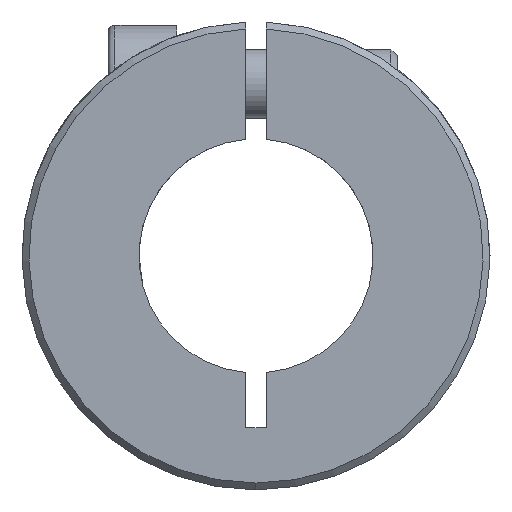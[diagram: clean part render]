
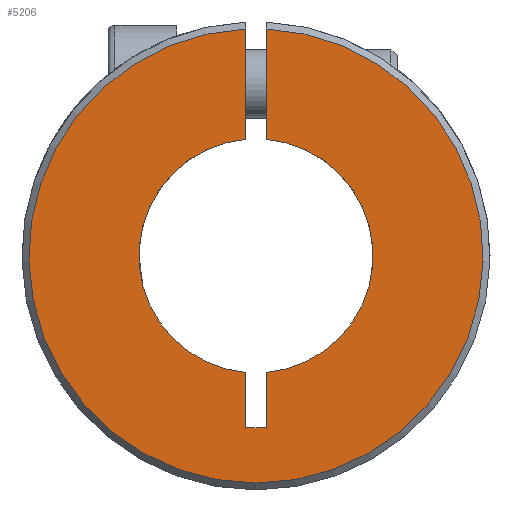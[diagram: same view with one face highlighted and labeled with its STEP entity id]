
A CAD part, left-side view. The second image highlights one B-rep face of the part: STEP entity #5206.
In plain terms, the highlighted planar face has unit normal (-1, 0, 0).
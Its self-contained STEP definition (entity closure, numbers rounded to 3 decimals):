
#6 = EDGE_CURVE ( 'NONE', #1097, #5092, #2898, .T. ) ;
#44 = DIRECTION ( 'NONE',  ( 0., 0., -1. ) ) ;
#96 = FACE_OUTER_BOUND ( 'NONE', #2799, .T. ) ;
#522 = AXIS2_PLACEMENT_3D ( 'NONE', #5287, #905, #4186 ) ;
#546 = CARTESIAN_POINT ( 'NONE',  ( -25., -0.75, 8.467 ) ) ;
#649 = LINE ( 'NONE', #3221, #5061 ) ;
#732 = DIRECTION ( 'NONE',  ( -1., 0., 0. ) ) ;
#773 = VECTOR ( 'NONE', #4416, 1000. ) ;
#903 = CIRCLE ( 'NONE', #1349, 16.5 ) ;
#905 = DIRECTION ( 'NONE',  ( -1., 0., 0. ) ) ;
#966 = CIRCLE ( 'NONE', #5164, 8.5 ) ;
#991 = CARTESIAN_POINT ( 'NONE',  ( -25., -0.75, -8.467 ) ) ;
#1097 = VERTEX_POINT ( 'NONE', #3614 ) ;
#1111 = VERTEX_POINT ( 'NONE', #1508 ) ;
#1178 = ORIENTED_EDGE ( 'NONE', *, *, #1530, .F. ) ;
#1190 = EDGE_CURVE ( 'NONE', #2698, #2719, #649, .T. ) ;
#1226 = EDGE_CURVE ( 'NONE', #3605, #2698, #1313, .T. ) ;
#1274 = LINE ( 'NONE', #3388, #1569 ) ;
#1297 = VERTEX_POINT ( 'NONE', #1979 ) ;
#1301 = CARTESIAN_POINT ( 'NONE',  ( -25., 0., 0. ) ) ;
#1313 = CIRCLE ( 'NONE', #4388, 8.5 ) ;
#1349 = AXIS2_PLACEMENT_3D ( 'NONE', #2109, #4329, #44 ) ;
#1384 = DIRECTION ( 'NONE',  ( 0., 0., 1. ) ) ;
#1508 = CARTESIAN_POINT ( 'NONE',  ( -25., 0.75, -12.5 ) ) ;
#1530 = EDGE_CURVE ( 'NONE', #1297, #5046, #966, .T. ) ;
#1540 = ORIENTED_EDGE ( 'NONE', *, *, #1190, .F. ) ;
#1569 = VECTOR ( 'NONE', #2984, 1000. ) ;
#1679 = PLANE ( 'NONE',  #4803 ) ;
#1767 = CARTESIAN_POINT ( 'NONE',  ( -25., 8.5, 0. ) ) ;
#1979 = CARTESIAN_POINT ( 'NONE',  ( -25., 0.75, 8.467 ) ) ;
#2092 = EDGE_CURVE ( 'NONE', #1297, #1097, #4672, .T. ) ;
#2093 = EDGE_CURVE ( 'NONE', #5092, #2719, #903, .T. ) ;
#2109 = CARTESIAN_POINT ( 'NONE',  ( -25., 0., 0. ) ) ;
#2113 = DIRECTION ( 'NONE',  ( 0., 1., 0. ) ) ;
#2126 = VECTOR ( 'NONE', #1384, 1000. ) ;
#2452 = ORIENTED_EDGE ( 'NONE', *, *, #4071, .T. ) ;
#2576 = ORIENTED_EDGE ( 'NONE', *, *, #6, .T. ) ;
#2579 = CARTESIAN_POINT ( 'NONE',  ( -25., 0.75, -12.5 ) ) ;
#2698 = VERTEX_POINT ( 'NONE', #546 ) ;
#2719 = VERTEX_POINT ( 'NONE', #4822 ) ;
#2799 = EDGE_LOOP ( 'NONE', ( #5129, #2576, #4962, #1540, #5017, #3931, #4162, #2452, #1178 ) ) ;
#2832 = DIRECTION ( 'NONE',  ( 0., 0., 1. ) ) ;
#2898 = CIRCLE ( 'NONE', #522, 16.5 ) ;
#2984 = DIRECTION ( 'NONE',  ( 0., 1., 0. ) ) ;
#3221 = CARTESIAN_POINT ( 'NONE',  ( -25., -0.75, -12.5 ) ) ;
#3358 = CARTESIAN_POINT ( 'NONE',  ( -25., 0., -16.5 ) ) ;
#3388 = CARTESIAN_POINT ( 'NONE',  ( -25., -0.75, -12.5 ) ) ;
#3438 = VECTOR ( 'NONE', #2832, 1000. ) ;
#3587 = LINE ( 'NONE', #4817, #773 ) ;
#3605 = VERTEX_POINT ( 'NONE', #991 ) ;
#3614 = CARTESIAN_POINT ( 'NONE',  ( -25., 0.75, 16.483 ) ) ;
#3661 = CARTESIAN_POINT ( 'NONE',  ( -25., 0., 0. ) ) ;
#3769 = DIRECTION ( 'NONE',  ( -1., 0., 0. ) ) ;
#3931 = ORIENTED_EDGE ( 'NONE', *, *, #5039, .F. ) ;
#4071 = EDGE_CURVE ( 'NONE', #1111, #5046, #3587, .T. ) ;
#4077 = DIRECTION ( 'NONE',  ( 0., 0., 1. ) ) ;
#4162 = ORIENTED_EDGE ( 'NONE', *, *, #5303, .T. ) ;
#4186 = DIRECTION ( 'NONE',  ( 0., 0., -1. ) ) ;
#4226 = DIRECTION ( 'NONE',  ( 0., 0., 1. ) ) ;
#4329 = DIRECTION ( 'NONE',  ( -1., 0., 0. ) ) ;
#4388 = AXIS2_PLACEMENT_3D ( 'NONE', #3661, #732, #5325 ) ;
#4416 = DIRECTION ( 'NONE',  ( 0., 0., 1. ) ) ;
#4527 = CARTESIAN_POINT ( 'NONE',  ( -25., -0.75, -12.5 ) ) ;
#4542 = CARTESIAN_POINT ( 'NONE',  ( -25., -0.75, -12.5 ) ) ;
#4665 = VERTEX_POINT ( 'NONE', #4527 ) ;
#4672 = LINE ( 'NONE', #2579, #2126 ) ;
#4803 = AXIS2_PLACEMENT_3D ( 'NONE', #1767, #5011, #2113 ) ;
#4817 = CARTESIAN_POINT ( 'NONE',  ( -25., 0.75, -12.5 ) ) ;
#4822 = CARTESIAN_POINT ( 'NONE',  ( -25., -0.75, 16.483 ) ) ;
#4908 = CARTESIAN_POINT ( 'NONE',  ( -25., 0.75, -8.467 ) ) ;
#4962 = ORIENTED_EDGE ( 'NONE', *, *, #2093, .T. ) ;
#5011 = DIRECTION ( 'NONE',  ( 1., 0., 0. ) ) ;
#5017 = ORIENTED_EDGE ( 'NONE', *, *, #1226, .F. ) ;
#5039 = EDGE_CURVE ( 'NONE', #4665, #3605, #5398, .T. ) ;
#5046 = VERTEX_POINT ( 'NONE', #4908 ) ;
#5061 = VECTOR ( 'NONE', #4077, 1000. ) ;
#5092 = VERTEX_POINT ( 'NONE', #3358 ) ;
#5129 = ORIENTED_EDGE ( 'NONE', *, *, #2092, .T. ) ;
#5164 = AXIS2_PLACEMENT_3D ( 'NONE', #1301, #3769, #4226 ) ;
#5206 = ADVANCED_FACE ( 'NONE', ( #96 ), #1679, .F. ) ;
#5287 = CARTESIAN_POINT ( 'NONE',  ( -25., 0., 0. ) ) ;
#5303 = EDGE_CURVE ( 'NONE', #4665, #1111, #1274, .T. ) ;
#5325 = DIRECTION ( 'NONE',  ( 0., 0., 1. ) ) ;
#5398 = LINE ( 'NONE', #4542, #3438 ) ;
